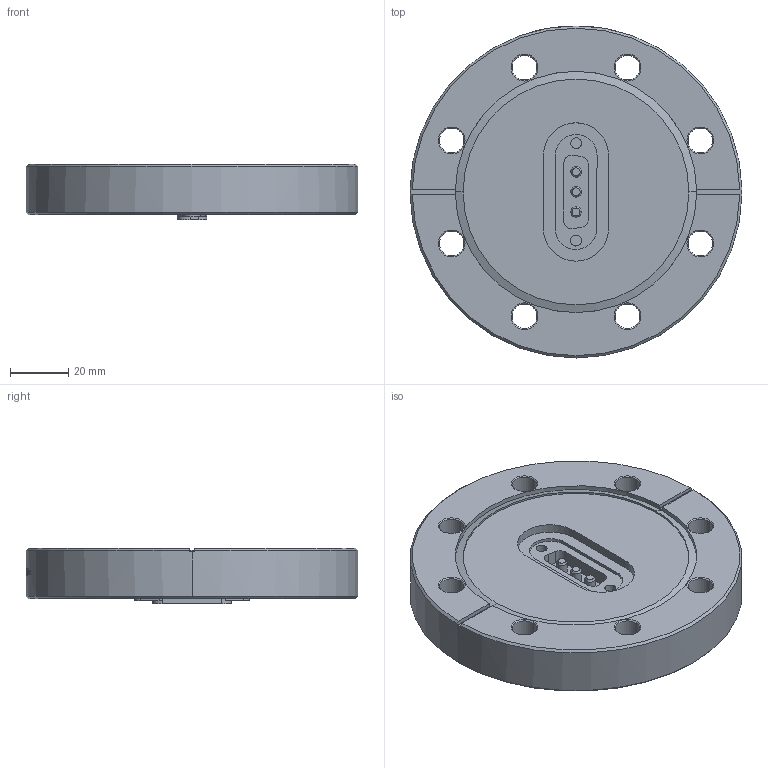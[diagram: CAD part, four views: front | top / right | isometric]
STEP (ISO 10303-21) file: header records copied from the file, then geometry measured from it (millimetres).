
FILE_DESCRIPTION (( 'STEP AP203' ), '1' );
FILE_NAME ('100940.stp', '2022-01-12T22:20:55', ( '' ), ( '' ), 'SwSTEP 2.0', 'SolidWorks 2012', '' );
FILE_SCHEMA (( 'CONFIG_CONTROL_DESIGN' ));
Length unit declared in the file: centimetre
Products named in the file (1): 100940
Bounding box: 113.54 x 113.54 x 19.02 mm (x, y, z)
Volume: 154978.1 mm3; surface area: 31318.2 mm2
Topology: 1 solids, 1 shells, 460 faces, 1194 edges, 780 vertices
Faces by surface type: plane 163, bspline 141, cylinder 105, cone 51
Entity records: 40723 total; most frequent: CARTESIAN_POINT 30297, ORIENTED_EDGE 2388, DIRECTION 1733, EDGE_CURVE 1194, VERTEX_POINT 780, AXIS2_PLACEMENT_3D 604, LINE 525, VECTOR 525
